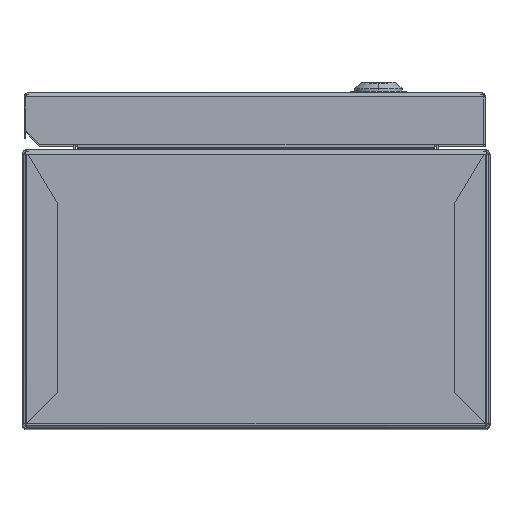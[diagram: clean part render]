
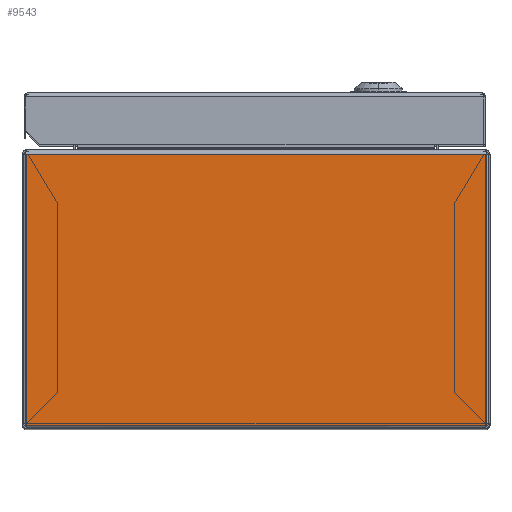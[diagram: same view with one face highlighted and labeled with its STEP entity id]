
A CAD part, top view. The second image highlights one B-rep face of the part: STEP entity #9543.
In plain terms, the highlighted planar face has unit normal (0, 0, 1).
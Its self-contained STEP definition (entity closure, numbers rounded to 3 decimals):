
#898 = LINE ( 'NONE', #4510, #8191 ) ;
#1317 = ORIENTED_EDGE ( 'NONE', *, *, #10731, .T. ) ;
#1400 = VECTOR ( 'NONE', #9738, 1000. ) ;
#1532 = DIRECTION ( 'NONE',  ( 0., -1., 0. ) ) ;
#2371 = EDGE_LOOP ( 'NONE', ( #6462, #1317, #8942, #9469 ) ) ;
#2468 = CARTESIAN_POINT ( 'NONE',  ( -103.5, 123., 200. ) ) ;
#2543 = EDGE_CURVE ( 'NONE', #11504, #8394, #898, .T. ) ;
#3149 = VECTOR ( 'NONE', #1532, 1000. ) ;
#3308 = EDGE_CURVE ( 'NONE', #11504, #4580, #10432, .T. ) ;
#4272 = CARTESIAN_POINT ( 'NONE',  ( -103.5, 123., 200. ) ) ;
#4429 = DIRECTION ( 'NONE',  ( 0., 1., 0. ) ) ;
#4510 = CARTESIAN_POINT ( 'NONE',  ( -103.5, 123., 200. ) ) ;
#4580 = VERTEX_POINT ( 'NONE', #11267 ) ;
#5303 = DIRECTION ( 'NONE',  ( 0., 0., 1. ) ) ;
#5679 = DIRECTION ( 'NONE',  ( 0., -1., 0. ) ) ;
#6105 = CARTESIAN_POINT ( 'NONE',  ( -103.5, 1.5, 200. ) ) ;
#6116 = CARTESIAN_POINT ( 'NONE',  ( -103.5, 1.5, 200. ) ) ;
#6250 = CARTESIAN_POINT ( 'NONE',  ( 103.5, 123., 200. ) ) ;
#6462 = ORIENTED_EDGE ( 'NONE', *, *, #2543, .T. ) ;
#7233 = VERTEX_POINT ( 'NONE', #7886 ) ;
#7626 = AXIS2_PLACEMENT_3D ( 'NONE', #4272, #5303, #4429 ) ;
#7886 = CARTESIAN_POINT ( 'NONE',  ( 103.5, 1.5, 200. ) ) ;
#8013 = LINE ( 'NONE', #6250, #3149 ) ;
#8191 = VECTOR ( 'NONE', #5679, 1000. ) ;
#8394 = VERTEX_POINT ( 'NONE', #6116 ) ;
#8684 = LINE ( 'NONE', #6105, #9525 ) ;
#8942 = ORIENTED_EDGE ( 'NONE', *, *, #9538, .F. ) ;
#9469 = ORIENTED_EDGE ( 'NONE', *, *, #3308, .F. ) ;
#9525 = VECTOR ( 'NONE', #11563, 1000. ) ;
#9538 = EDGE_CURVE ( 'NONE', #4580, #7233, #8013, .T. ) ;
#9543 = ADVANCED_FACE ( 'NONE', ( #10173 ), #9920, .T. ) ;
#9738 = DIRECTION ( 'NONE',  ( 1., 0., 0. ) ) ;
#9773 = CARTESIAN_POINT ( 'NONE',  ( -103.5, 123., 200. ) ) ;
#9920 = PLANE ( 'NONE',  #7626 ) ;
#10173 = FACE_OUTER_BOUND ( 'NONE', #2371, .T. ) ;
#10432 = LINE ( 'NONE', #2468, #1400 ) ;
#10731 = EDGE_CURVE ( 'NONE', #8394, #7233, #8684, .T. ) ;
#11267 = CARTESIAN_POINT ( 'NONE',  ( 103.5, 123., 200. ) ) ;
#11504 = VERTEX_POINT ( 'NONE', #9773 ) ;
#11563 = DIRECTION ( 'NONE',  ( 1., 0., 0. ) ) ;
